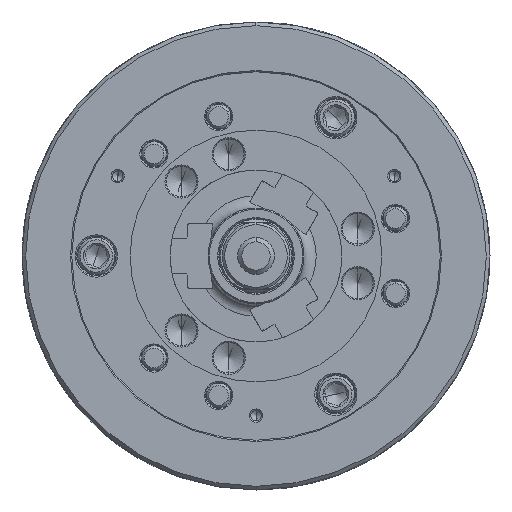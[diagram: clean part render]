
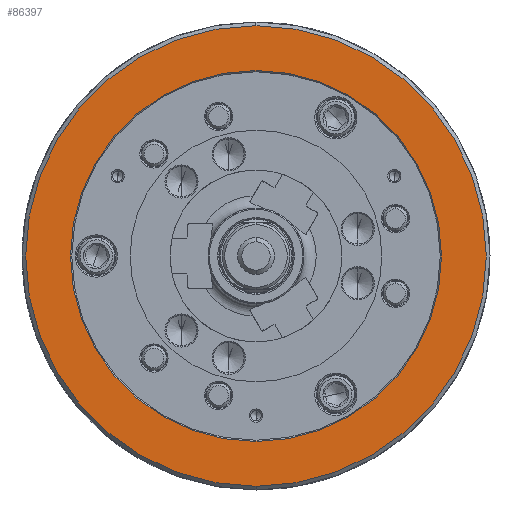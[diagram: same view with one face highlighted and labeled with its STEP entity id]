
A CAD part, left-side view. The second image highlights one B-rep face of the part: STEP entity #86397.
In plain terms, the highlighted planar face has unit normal (-1, 0, 0).
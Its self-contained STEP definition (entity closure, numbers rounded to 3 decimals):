
#1487 = AXIS2_PLACEMENT_3D ( 'NONE', #102656, #42089, #103943 ) ;
#2523 = CARTESIAN_POINT ( 'NONE',  ( -114., 0., 151. ) ) ;
#5339 = ORIENTED_EDGE ( 'NONE', *, *, #95483, .F. ) ;
#7486 = DIRECTION ( 'NONE',  ( 0., 0., -1. ) ) ;
#11046 = ORIENTED_EDGE ( 'NONE', *, *, #33432, .F. ) ;
#13956 = CARTESIAN_POINT ( 'NONE',  ( -114., 0., 0. ) ) ;
#16793 = CARTESIAN_POINT ( 'NONE',  ( -114., -187.5, 0. ) ) ;
#17446 = DIRECTION ( 'NONE',  ( 1., 0., 0. ) ) ;
#20654 = CIRCLE ( 'NONE', #126881, 151. ) ;
#26782 = PLANE ( 'NONE',  #60345 ) ;
#29942 = ORIENTED_EDGE ( 'NONE', *, *, #94917, .T. ) ;
#31004 = VERTEX_POINT ( 'NONE', #67306 ) ;
#33432 = EDGE_CURVE ( 'NONE', #31004, #120117, #77309, .T. ) ;
#42089 = DIRECTION ( 'NONE',  ( 1., 0., 0. ) ) ;
#43433 = DIRECTION ( 'NONE',  ( 1., 0., 0. ) ) ;
#43897 = DIRECTION ( 'NONE',  ( 1., 0., 0. ) ) ;
#44400 = VERTEX_POINT ( 'NONE', #2523 ) ;
#46123 = CIRCLE ( 'NONE', #1487, 151. ) ;
#60345 = AXIS2_PLACEMENT_3D ( 'NONE', #16793, #17446, #7486 ) ;
#61128 = CIRCLE ( 'NONE', #63211, 187.5 ) ;
#63211 = AXIS2_PLACEMENT_3D ( 'NONE', #13956, #43897, #126412 ) ;
#67306 = CARTESIAN_POINT ( 'NONE',  ( -114., 0., -187.5 ) ) ;
#70184 = CARTESIAN_POINT ( 'NONE',  ( -114., 0., 187.5 ) ) ;
#75903 = DIRECTION ( 'NONE',  ( 0., 0., -1. ) ) ;
#77309 = CIRCLE ( 'NONE', #98598, 187.5 ) ;
#78729 = ORIENTED_EDGE ( 'NONE', *, *, #122621, .T. ) ;
#86208 = EDGE_LOOP ( 'NONE', ( #78729, #29942 ) ) ;
#86397 = ADVANCED_FACE ( 'NONE', ( #117959, #107972 ), #26782, .F. ) ;
#86543 = CARTESIAN_POINT ( 'NONE',  ( -114., 0., 0. ) ) ;
#93423 = CARTESIAN_POINT ( 'NONE',  ( -114., 0., -151. ) ) ;
#94552 = DIRECTION ( 'NONE',  ( 1., 0., 0. ) ) ;
#94917 = EDGE_CURVE ( 'NONE', #131312, #44400, #46123, .T. ) ;
#95483 = EDGE_CURVE ( 'NONE', #120117, #31004, #61128, .T. ) ;
#98598 = AXIS2_PLACEMENT_3D ( 'NONE', #86543, #43433, #113331 ) ;
#102656 = CARTESIAN_POINT ( 'NONE',  ( -114., 0., 0. ) ) ;
#103943 = DIRECTION ( 'NONE',  ( 0., 0., -1. ) ) ;
#105176 = CARTESIAN_POINT ( 'NONE',  ( -114., 0., 0. ) ) ;
#107972 = FACE_BOUND ( 'NONE', #86208, .T. ) ;
#109842 = EDGE_LOOP ( 'NONE', ( #11046, #5339 ) ) ;
#113331 = DIRECTION ( 'NONE',  ( 0., 0., -1. ) ) ;
#117959 = FACE_OUTER_BOUND ( 'NONE', #109842, .T. ) ;
#120117 = VERTEX_POINT ( 'NONE', #70184 ) ;
#122621 = EDGE_CURVE ( 'NONE', #44400, #131312, #20654, .T. ) ;
#126412 = DIRECTION ( 'NONE',  ( 0., 0., -1. ) ) ;
#126881 = AXIS2_PLACEMENT_3D ( 'NONE', #105176, #94552, #75903 ) ;
#131312 = VERTEX_POINT ( 'NONE', #93423 ) ;
